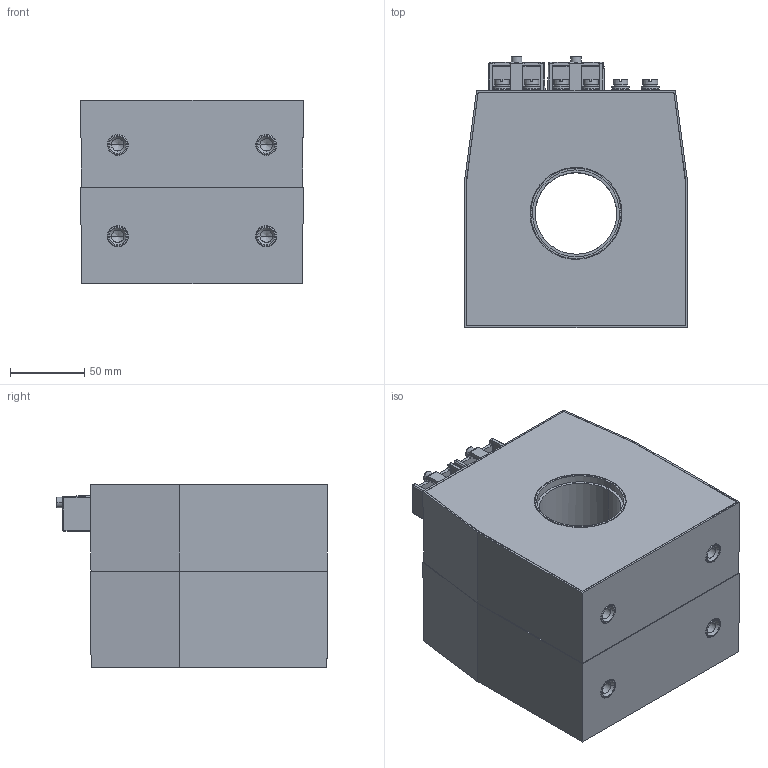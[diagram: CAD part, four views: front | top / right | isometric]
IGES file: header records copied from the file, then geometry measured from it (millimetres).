
Start section: IGES file generated from Kompas f.0 for Windows drawing by the IGES translator from Ascon Ltd., translator version IGESOUT-5.1.
Global section: file name: C:\Ðàáîòà\Èçâåùåíèÿ 5\ÒØÏ-ÍÒÇ-0.66-61...,71...,81... (ñáîðíûé)\Âåðñèÿ îò 21.05.24\3D ìîäåëü\ÒØÏ-ÍÒÇ-0,66-72À\ÒØÏ-ÍÒÇ-0,66-72À (55 ìì, 2-é ãàáàðèò).igs; native system: Kompas( 32 bit ) for Windows; preprocessor: 1.0; author: 123; organization: Microsoft; date: -17750727:093818; units: millimetre
Bounding box: 150 x 182.93 x 123.5 mm (x, y, z)
Volume: 504314.4 mm3; surface area: 323008.9 mm2
Topology: 39 solids, 39 shells, 784 faces, 1801 edges, 1103 vertices
Faces by surface type: revolution 466, bspline 318
